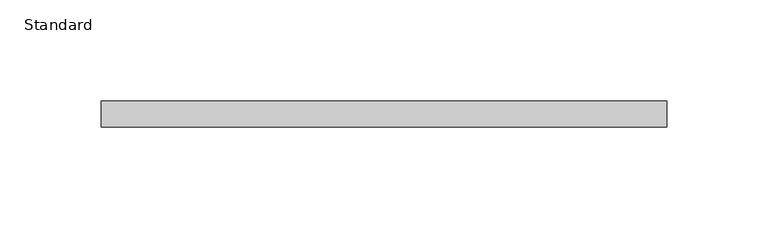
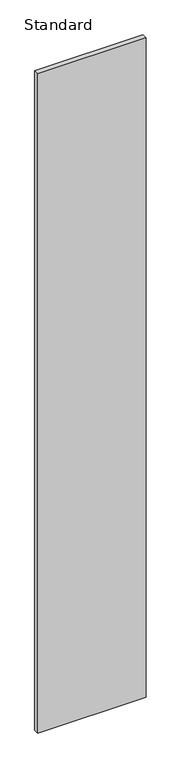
"""IFC4 building model written with IfcOpenShell, lengths in millimetres: furniture geometry, X_Partition-Compact Laminate-Duracube-Rectangular : Standard."""

from ifc_helpers import new_model, si_unit, frame, origin, place, context, project, spatial, polyline, outline, extrude, source, transform, mapped, element, save


def standard_b3e6c0d4(model_context):
    return source(origin(), model_context, "Body", "SweptSolid", [
        extrude(outline(polyline([(184.7003264, 0.0), (184.7003264, -13.0), (-95.2996736, -13.0), (-95.2996736, 0.0), (184.7003264, 0.0)])), frame((0.0, 0.0, 200.0), z_axis=(0.0, 0.0, 1.0), x_axis=(1.0, 0.0, 0.0)), (0.0, 0.0, 1.0), 1799.0),
    ])


if __name__ == "__main__":
    model = new_model("IFC4")
    model_context = context("Model", 3, world=origin())
    ifc_project = project(units=[si_unit("LENGTHUNIT", "METRE", prefix="MILLI")], contexts=[model_context])
    site = spatial("IfcSite", under=ifc_project)
    building = spatial("IfcBuilding", under=site)
    placement = place(None, origin())
    standard_shape = standard_b3e6c0d4(model_context)
    element("IfcFurniture", 1, ObjectType="X_Partition-Compact Laminate-Duracube-Rectangular : Standard", at=placement, inside=building, context=model_context, shape_type="MappedRepresentation", body=[
        mapped(standard_shape, transform((0.0, 0.0, 0.0), x_axis=(1.0, 0.0, 0.0), y_axis=(0.0, 1.0, 0.0), z_axis=(0.0, 0.0, 1.0))),
    ])
    save(model, "model.ifc")
